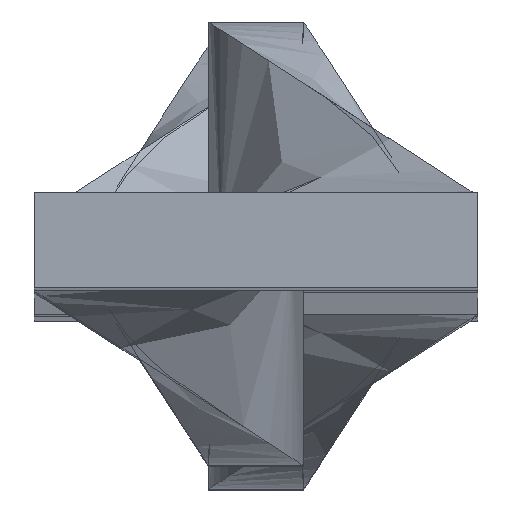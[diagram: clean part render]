
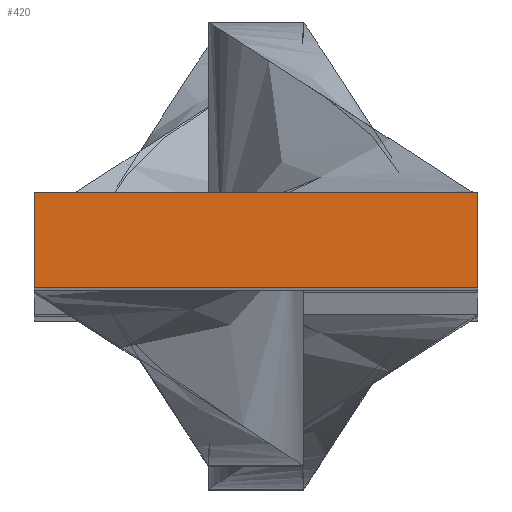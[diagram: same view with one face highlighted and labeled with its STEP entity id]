
A CAD part, top view. The second image highlights one B-rep face of the part: STEP entity #420.
In plain terms, the highlighted planar face has unit normal (0, 0, 1).
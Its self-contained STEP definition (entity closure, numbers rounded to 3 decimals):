
#5 = ORIENTED_EDGE ( 'NONE', *, *, #812, .F. ) ;
#11 = FACE_OUTER_BOUND ( 'NONE', #635, .T. ) ;
#31 = DIRECTION ( 'NONE',  ( 0., -1., 0. ) ) ;
#36 = EDGE_CURVE ( 'NONE', #1226, #873, #785, .T. ) ;
#116 = LINE ( 'NONE', #1382, #934 ) ;
#119 = EDGE_CURVE ( 'NONE', #1514, #1226, #116, .T. ) ;
#131 = CARTESIAN_POINT ( 'NONE',  ( 7., 1.5, 608.5 ) ) ;
#194 = VECTOR ( 'NONE', #31, 1000. ) ;
#284 = LINE ( 'NONE', #908, #1491 ) ;
#396 = CARTESIAN_POINT ( 'NONE',  ( 7., -1.5, 608.5 ) ) ;
#420 = ADVANCED_FACE ( 'NONE', ( #11 ), #1135, .F. ) ;
#469 = ORIENTED_EDGE ( 'NONE', *, *, #36, .F. ) ;
#635 = EDGE_LOOP ( 'NONE', ( #1351, #1345, #5, #469 ) ) ;
#785 = LINE ( 'NONE', #1428, #811 ) ;
#797 = AXIS2_PLACEMENT_3D ( 'NONE', #1034, #1248, #1186 ) ;
#803 = VERTEX_POINT ( 'NONE', #396 ) ;
#811 = VECTOR ( 'NONE', #1093, 1000. ) ;
#812 = EDGE_CURVE ( 'NONE', #873, #803, #1209, .T. ) ;
#873 = VERTEX_POINT ( 'NONE', #131 ) ;
#908 = CARTESIAN_POINT ( 'NONE',  ( 7., -1.5, 608.5 ) ) ;
#919 = DIRECTION ( 'NONE',  ( -1., 0., 0. ) ) ;
#934 = VECTOR ( 'NONE', #1101, 1000. ) ;
#984 = EDGE_CURVE ( 'NONE', #803, #1514, #284, .T. ) ;
#1034 = CARTESIAN_POINT ( 'NONE',  ( 0., 0., 608.5 ) ) ;
#1093 = DIRECTION ( 'NONE',  ( 1., 0., 0. ) ) ;
#1101 = DIRECTION ( 'NONE',  ( 0., 1., 0. ) ) ;
#1135 = PLANE ( 'NONE',  #797 ) ;
#1186 = DIRECTION ( 'NONE',  ( -1., 0., 0. ) ) ;
#1209 = LINE ( 'NONE', #1270, #194 ) ;
#1226 = VERTEX_POINT ( 'NONE', #1249 ) ;
#1248 = DIRECTION ( 'NONE',  ( 0., 0., -1. ) ) ;
#1249 = CARTESIAN_POINT ( 'NONE',  ( -7., 1.5, 608.5 ) ) ;
#1270 = CARTESIAN_POINT ( 'NONE',  ( 7., 1.5, 608.5 ) ) ;
#1345 = ORIENTED_EDGE ( 'NONE', *, *, #984, .F. ) ;
#1351 = ORIENTED_EDGE ( 'NONE', *, *, #119, .F. ) ;
#1382 = CARTESIAN_POINT ( 'NONE',  ( -7., -1.5, 608.5 ) ) ;
#1428 = CARTESIAN_POINT ( 'NONE',  ( -7., 1.5, 608.5 ) ) ;
#1456 = CARTESIAN_POINT ( 'NONE',  ( -7., -1.5, 608.5 ) ) ;
#1491 = VECTOR ( 'NONE', #919, 1000. ) ;
#1514 = VERTEX_POINT ( 'NONE', #1456 ) ;
